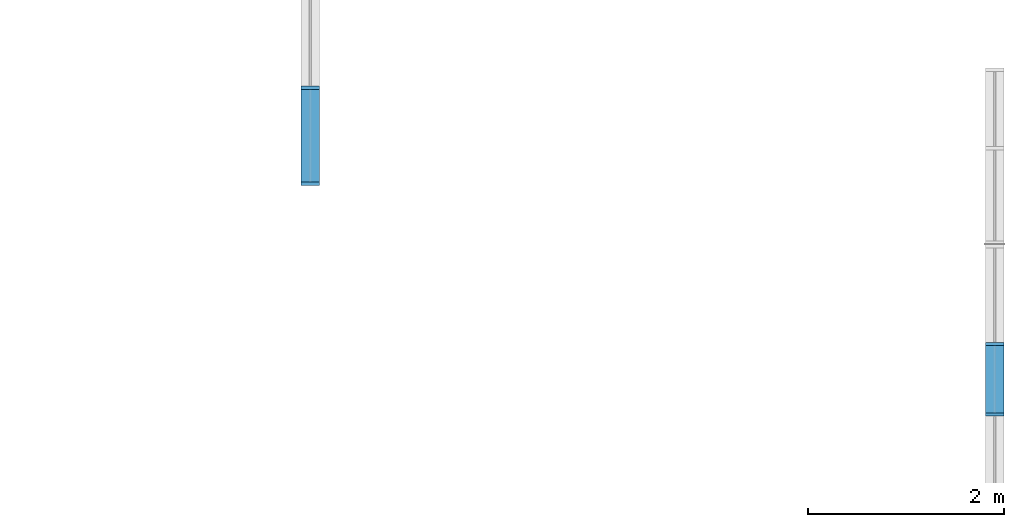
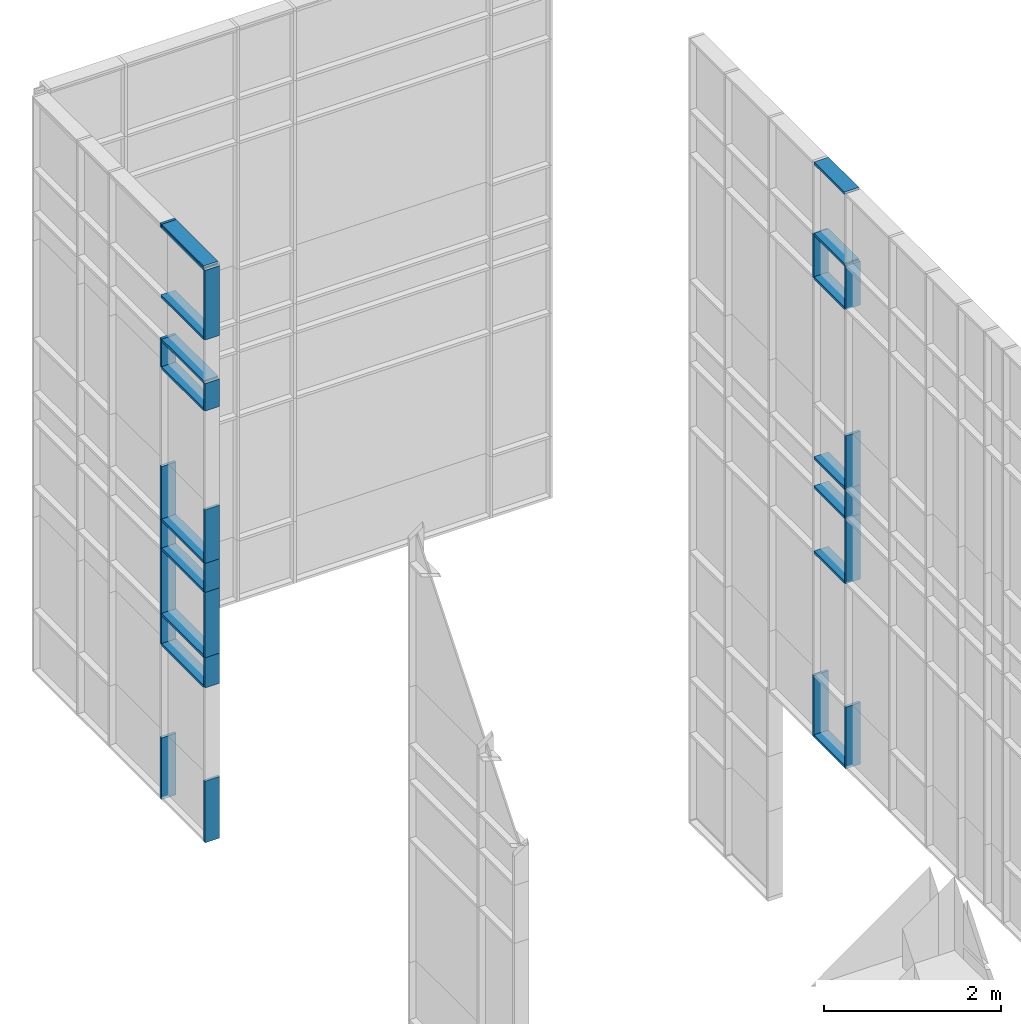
# One storey, part 16 of 73: 37 members, 2 elements without a shape of their own.
"""IFC2X3 building model written with IfcOpenShell, lengths in millimetres."""

from ifc_helpers import new_model, entity, si_unit, converted_unit, derived_unit, direction, frame, frame_2d, origin, origin_2d_with_axis, place, context, subcontext, project, spatial, rectangle, extrude, source, transform, mapped, material, type_object, type_shapes, element, aggregate, save


model = new_model("IFC2X3")

# Units and contexts
model_context = context("Model", 3, precision=0.01, world=origin(), true_north=direction((6.12303176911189e-17, 1.0)))
body_context = subcontext(model_context, "Body", "Model", "MODEL_VIEW")
ifc_project = project(units=[si_unit("LENGTHUNIT", "METRE", prefix="MILLI"), si_unit("AREAUNIT", "SQUARE_METRE"), si_unit("VOLUMEUNIT", "CUBIC_METRE"), converted_unit("PLANEANGLEUNIT", "DEGREE", entity("IfcRatioMeasure", 0.0174532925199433), si_unit("PLANEANGLEUNIT", "RADIAN"), dimensions=[0, 0, 0, 0, 0, 0, 0]), si_unit("MASSUNIT", "GRAM", prefix="KILO"), derived_unit("MASSDENSITYUNIT", [(si_unit("MASSUNIT", "GRAM", prefix="KILO"), 1), (si_unit("LENGTHUNIT", "METRE"), -3)]), si_unit("TIMEUNIT", "SECOND"), si_unit("FREQUENCYUNIT", "HERTZ"), si_unit("THERMODYNAMICTEMPERATUREUNIT", "DEGREE_CELSIUS"), derived_unit("THERMALTRANSMITTANCEUNIT", [(si_unit("MASSUNIT", "GRAM", prefix="KILO"), 1), (si_unit("THERMODYNAMICTEMPERATUREUNIT", "KELVIN"), -1), (si_unit("TIMEUNIT", "SECOND"), -3)]), derived_unit("VOLUMETRICFLOWRATEUNIT", [(si_unit("LENGTHUNIT", "METRE"), 3), (si_unit("TIMEUNIT", "SECOND"), -1)]), si_unit("ELECTRICCURRENTUNIT", "AMPERE"), si_unit("ELECTRICVOLTAGEUNIT", "VOLT"), si_unit("POWERUNIT", "WATT"), si_unit("FORCEUNIT", "NEWTON", prefix="KILO"), si_unit("ILLUMINANCEUNIT", "LUX"), si_unit("LUMINOUSFLUXUNIT", "LUMEN"), si_unit("LUMINOUSINTENSITYUNIT", "CANDELA"), derived_unit("USERDEFINED", [(si_unit("MASSUNIT", "GRAM", prefix="KILO"), -1), (si_unit("LENGTHUNIT", "METRE"), -2), (si_unit("TIMEUNIT", "SECOND"), 3), (si_unit("LUMINOUSFLUXUNIT", "LUMEN"), 1)]), derived_unit("LINEARVELOCITYUNIT", [(si_unit("LENGTHUNIT", "METRE"), 1), (si_unit("TIMEUNIT", "SECOND"), -1)]), si_unit("PRESSUREUNIT", "PASCAL"), derived_unit("USERDEFINED", [(si_unit("LENGTHUNIT", "METRE"), -2), (si_unit("MASSUNIT", "GRAM", prefix="KILO"), 1), (si_unit("TIMEUNIT", "SECOND"), -2)])], contexts=[model_context])

# Site, building, storey
site_placement = place(None, frame((-151.875543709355, 2715.0, 0.0)))
site = spatial("IfcSite", under=ifc_project, at=site_placement, Name="Surface", CompositionType="ELEMENT")
building_placement = place(site_placement, origin())
building = spatial("IfcBuilding", under=site, at=building_placement, CompositionType="ELEMENT")
storey_placement = place(building_placement, frame((0.0, 0.0, 6730.43000000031)))
storey = spatial("IfcBuildingStorey", under=building, at=storey_placement, Name="3 korrus", CompositionType="ELEMENT", Elevation=6730.43000000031)

# Curtain wall, members
curtain_wall_type_1 = type_object("IfcCurtainWallType", Name="Curtain Wall:Klaasfassaad", PredefinedType="NOTDEFINED")
curtain_wall_1_placement = place(storey_placement, frame((0.0, 0.0, -6730.43000000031)))
curtain_wall_1 = element("IfcCurtainWall", 1, at=curtain_wall_1_placement, inside=storey, type_object=curtain_wall_type_1, Name="Curtain Wall:Klaasfassaad", ObjectType="Curtain Wall:Klaasfassaad")
ifc_material = material(Name="Steel/Aluminium")
member_type_1 = type_object("IfcMemberType", Name="35 x 190mm", PredefinedType="MEMBER")
shared_shape_1 = source(origin(), body_context, "Body", "SweptSolid", [
    extrude(rectangle(XDim=190.0, YDim=35.0, at=origin_2d_with_axis()), frame((-17.5, 0.0, -685.0), z_axis=(0.0, 0.0, 1.0), x_axis=(0.0, -1.0, 0.0)), (0.0, 0.0, 1.0), 684.999999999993),
])
type_shapes(member_type_1, [shared_shape_1])
member_1_placement = place(storey_placement, frame((38701.6162681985, 20288.0004565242, -2856.00226032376), z_axis=(0.0, -1.0, 0.0), x_axis=(0.0, 0.0, -1.0)))
member_1 = element("IfcMember", 2, at=member_1_placement, type_object=member_type_1, material=ifc_material, Name="Rectangular Mullion:35 x 190mm", ObjectType="35 x 190mm", context=body_context, shape_type="MappedRepresentation", body=[
    mapped(shared_shape_1, transform((0.0, 0.0, 0.0), scale=1.0)),
])
member_type_2 = type_object("IfcMemberType", Name="35 x 190mm", PredefinedType="MEMBER")
shared_shape_2 = source(origin(), body_context, "Body", "SweptSolid", [
    extrude(rectangle(XDim=190.0, YDim=35.0, at=origin_2d_with_axis()), frame((-17.5, 0.0, -685.0), z_axis=(0.0, 0.0, 1.0), x_axis=(0.0, -1.0, 0.0)), (0.0, 0.0, 1.0), 684.999999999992),
])
type_shapes(member_type_2, [shared_shape_2])
member_2_placement = place(storey_placement, frame((38701.6162681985, 20973.0004565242, 5074.47692901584), z_axis=(0.0, 1.0, 0.0), x_axis=(0.0, 0.0, 1.0)))
member_2 = element("IfcMember", 3, at=member_2_placement, type_object=member_type_2, material=ifc_material, Name="Rectangular Mullion:35 x 190mm", ObjectType="35 x 190mm", context=body_context, shape_type="MappedRepresentation", body=[
    mapped(shared_shape_2, transform((0.0, 0.0, 0.0), scale=1.0)),
])
member_type_3 = type_object("IfcMemberType", Name="35 x 190mm", PredefinedType="MEMBER")
shared_shape_3 = source(origin(), body_context, "Body", "SweptSolid", [
    extrude(rectangle(XDim=190.0, YDim=35.0, at=origin_2d_with_axis()), frame((0.0, 0.0, -850.159729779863), z_axis=(0.0, 0.0, 1.0), x_axis=(0.0, -1.0, 0.0)), (0.0, 0.0, 1.0), 850.159729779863),
])
type_shapes(member_type_3, [shared_shape_3])
member_3_placement = place(storey_placement, frame((38701.6162681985, 20270.5004565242, -2856.00226032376), z_axis=(0.0, 0.0, -1.0), x_axis=(0.0, 1.0, 0.0)))
member_3 = element("IfcMember", 4, at=member_3_placement, type_object=member_type_3, material=ifc_material, Name="Rectangular Mullion:35 x 190mm", ObjectType="35 x 190mm", context=body_context, shape_type="MappedRepresentation", body=[
    mapped(shared_shape_3, transform((0.0, 0.0, 0.0), scale=1.0)),
])
member_4_placement = place(storey_placement, frame((38701.6162681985, 20990.5004565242, -2856.00226032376), z_axis=(0.0, 0.0, -1.0), x_axis=(0.0, 1.0, 0.0)))
member_4 = element("IfcMember", 5, at=member_4_placement, type_object=member_type_3, material=ifc_material, Name="Rectangular Mullion:35 x 190mm", ObjectType="35 x 190mm", context=body_context, shape_type="MappedRepresentation", body=[
    mapped(shared_shape_3, transform((0.0, 0.0, 0.0), scale=1.0)),
])
member_type_4 = type_object("IfcMemberType", Name="35 x 190mm", PredefinedType="MEMBER")
shared_shape_4 = source(origin(), body_context, "Body", "SweptSolid", [
    extrude(rectangle(XDim=190.0, YDim=35.0, at=origin_2d_with_axis()), frame((0.0, 0.0, -685.0), z_axis=(0.0, 0.0, 1.0), x_axis=(0.0, -1.0, 0.0)), (0.0, 0.0, 1.0), 684.999999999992),
])
type_shapes(member_type_4, [shared_shape_4])
member_5_placement = place(storey_placement, frame((38701.6162681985, 20973.0004565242, 4074.47692901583), z_axis=(0.0, 1.0, 0.0), x_axis=(0.0, 0.0, 1.0)))
member_5 = element("IfcMember", 6, at=member_5_placement, type_object=member_type_4, material=ifc_material, Name="Rectangular Mullion:35 x 190mm", ObjectType="35 x 190mm", context=body_context, shape_type="MappedRepresentation", body=[
    mapped(shared_shape_4, transform((0.0, 0.0, 0.0), scale=1.0)),
])
member_type_5 = type_object("IfcMemberType", Name="35 x 190mm", PredefinedType="MEMBER")
shared_shape_5 = source(origin(), body_context, "Body", "SweptSolid", [
    extrude(rectangle(XDim=190.0, YDim=35.0, at=origin_2d_with_axis()), frame((0.0, 0.0, -685.0), z_axis=(0.0, 0.0, 1.0), x_axis=(0.0, -1.0, 0.0)), (0.0, 0.0, 1.0), 684.999999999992),
])
type_shapes(member_type_5, [shared_shape_5])
member_6_placement = place(storey_placement, frame((38701.6162681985, 20973.0004565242, 3474.47692901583), z_axis=(0.0, 1.0, 0.0), x_axis=(0.0, 0.0, 1.0)))
member_6 = element("IfcMember", 7, at=member_6_placement, type_object=member_type_5, material=ifc_material, Name="Rectangular Mullion:35 x 190mm", ObjectType="35 x 190mm", context=body_context, shape_type="MappedRepresentation", body=[
    mapped(shared_shape_5, transform((0.0, 0.0, 0.0), scale=1.0)),
])
member_type_6 = type_object("IfcMemberType", Name="35 x 190mm", PredefinedType="MEMBER")
shared_shape_6 = source(origin(), body_context, "Body", "SweptSolid", [
    extrude(rectangle(XDim=190.0, YDim=35.0, at=origin_2d_with_axis()), frame((0.0, 0.0, -685.0), z_axis=(0.0, 0.0, 1.0), x_axis=(0.0, -1.0, 0.0)), (0.0, 0.0, 1.0), 684.999999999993),
])
type_shapes(member_type_6, [shared_shape_6])
member_7_placement = place(storey_placement, frame((38701.6162681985, 20973.0004565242, 994.476929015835), z_axis=(0.0, 1.0, 0.0), x_axis=(0.0, 0.0, 1.0)))
member_7 = element("IfcMember", 8, at=member_7_placement, type_object=member_type_6, material=ifc_material, Name="Rectangular Mullion:35 x 190mm", ObjectType="35 x 190mm", context=body_context, shape_type="MappedRepresentation", body=[
    mapped(shared_shape_6, transform((0.0, 0.0, 0.0), scale=1.0)),
])
member_type_7 = type_object("IfcMemberType", Name="35 x 190mm", PredefinedType="MEMBER")
shared_shape_7 = source(origin(), body_context, "Body", "SweptSolid", [
    extrude(rectangle(XDim=190.0, YDim=35.0, at=origin_2d_with_axis()), frame((0.0, 0.0, -685.0), z_axis=(0.0, 0.0, 1.0), x_axis=(0.0, -1.0, 0.0)), (0.0, 0.0, 1.0), 684.999999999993),
])
type_shapes(member_type_7, [shared_shape_7])
member_8_placement = place(storey_placement, frame((38701.6162681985, 20973.0004565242, 594.476929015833), z_axis=(0.0, 1.0, 0.0), x_axis=(0.0, 0.0, 1.0)))
member_8 = element("IfcMember", 9, at=member_8_placement, type_object=member_type_7, material=ifc_material, Name="Rectangular Mullion:35 x 190mm", ObjectType="35 x 190mm", context=body_context, shape_type="MappedRepresentation", body=[
    mapped(shared_shape_7, transform((0.0, 0.0, 0.0), scale=1.0)),
])
member_type_8 = type_object("IfcMemberType", Name="35 x 190mm", PredefinedType="MEMBER")
shared_shape_8 = source(origin(), body_context, "Body", "SweptSolid", [
    extrude(rectangle(XDim=190.0, YDim=35.0, at=origin_2d_with_axis()), frame((0.0, 0.0, -685.0), z_axis=(0.0, 0.0, 1.0), x_axis=(0.0, -1.0, 0.0)), (0.0, 0.0, 1.0), 684.999999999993),
])
type_shapes(member_type_8, [shared_shape_8])
member_9_placement = place(storey_placement, frame((38701.6162681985, 20973.0004565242, -305.523070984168), z_axis=(0.0, 1.0, 0.0), x_axis=(0.0, 0.0, 1.0)))
member_9 = element("IfcMember", 10, at=member_9_placement, type_object=member_type_8, material=ifc_material, Name="Rectangular Mullion:35 x 190mm", ObjectType="35 x 190mm", context=body_context, shape_type="MappedRepresentation", body=[
    mapped(shared_shape_8, transform((0.0, 0.0, 0.0), scale=1.0)),
])
member_type_9 = type_object("IfcMemberType", Name="35 x 190mm", PredefinedType="MEMBER")
shared_shape_9 = source(origin(), body_context, "Body", "SweptSolid", [
    extrude(rectangle(XDim=190.0, YDim=35.0, at=origin_2d_with_axis()), frame((0.0, 0.0, -600.0), z_axis=(0.0, 0.0, 1.0), x_axis=(0.0, -1.0, 0.0)), (0.0, 0.0, 1.0), 599.999999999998),
])
type_shapes(member_type_9, [shared_shape_9])
member_10_placement = place(storey_placement, frame((38701.6162681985, 20270.5004565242, 3474.47692901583), z_axis=(0.0, 0.0, -1.0), x_axis=(0.0, 1.0, 0.0)))
member_10 = element("IfcMember", 11, at=member_10_placement, type_object=member_type_9, material=ifc_material, Name="Rectangular Mullion:35 x 190mm", ObjectType="35 x 190mm", context=body_context, shape_type="MappedRepresentation", body=[
    mapped(shared_shape_9, transform((0.0, 0.0, 0.0), scale=1.0)),
])
member_11_placement = place(storey_placement, frame((38701.6162681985, 20990.5004565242, 3474.47692901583), z_axis=(0.0, 0.0, -1.0), x_axis=(0.0, 1.0, 0.0)))
member_11 = element("IfcMember", 12, at=member_11_placement, type_object=member_type_9, material=ifc_material, Name="Rectangular Mullion:35 x 190mm", ObjectType="35 x 190mm", context=body_context, shape_type="MappedRepresentation", body=[
    mapped(shared_shape_9, transform((0.0, 0.0, 0.0), scale=1.0)),
])
member_type_10 = type_object("IfcMemberType", Name="35 x 190mm", PredefinedType="MEMBER")
shared_shape_10 = source(origin(), body_context, "Body", "SweptSolid", [
    extrude(rectangle(XDim=190.0, YDim=35.0, at=origin_2d_with_axis()), frame((0.0, 0.0, -740.0), z_axis=(0.0, 0.0, 1.0), x_axis=(0.0, -1.0, 0.0)), (0.0, 0.0, 1.0), 740.000000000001),
])
type_shapes(member_type_10, [shared_shape_10])
member_12_placement = place(storey_placement, frame((38701.6162681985, 20270.5004565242, 994.476929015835), z_axis=(0.0, 0.0, -1.0), x_axis=(0.0, 1.0, 0.0)))
member_12 = element("IfcMember", 13, at=member_12_placement, type_object=member_type_10, material=ifc_material, Name="Rectangular Mullion:35 x 190mm", ObjectType="35 x 190mm", context=body_context, shape_type="MappedRepresentation", body=[
    mapped(shared_shape_10, transform((0.0, 0.0, 0.0), scale=1.0)),
])
member_type_11 = type_object("IfcMemberType", Name="35 x 190mm", PredefinedType="MEMBER")
shared_shape_11 = source(origin(), body_context, "Body", "SweptSolid", [
    extrude(rectangle(XDim=190.0, YDim=35.0, at=origin_2d_with_axis()), frame((0.0, 0.0, -400.0), z_axis=(0.0, 0.0, 1.0), x_axis=(0.0, -1.0, 0.0)), (0.0, 0.0, 1.0), 400.0),
])
type_shapes(member_type_11, [shared_shape_11])
member_13_placement = place(storey_placement, frame((38701.6162681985, 20270.5004565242, 594.476929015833), z_axis=(0.0, 0.0, -1.0), x_axis=(0.0, 1.0, 0.0)))
member_13 = element("IfcMember", 14, at=member_13_placement, type_object=member_type_11, material=ifc_material, Name="Rectangular Mullion:35 x 190mm", ObjectType="35 x 190mm", context=body_context, shape_type="MappedRepresentation", body=[
    mapped(shared_shape_11, transform((0.0, 0.0, 0.0), scale=1.0)),
])
member_type_12 = type_object("IfcMemberType", Name="35 x 190mm", PredefinedType="MEMBER")
shared_shape_12 = source(origin(), body_context, "Body", "SweptSolid", [
    extrude(rectangle(XDim=190.0, YDim=35.0, at=origin_2d_with_axis()), frame((0.0, 0.0, -900.0), z_axis=(0.0, 0.0, 1.0), x_axis=(0.0, -1.0, 0.0)), (0.0, 0.0, 1.0), 900.000000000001),
])
type_shapes(member_type_12, [shared_shape_12])
member_14_placement = place(storey_placement, frame((38701.6162681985, 20270.5004565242, -305.523070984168), z_axis=(0.0, 0.0, -1.0), x_axis=(0.0, 1.0, 0.0)))
member_14 = element("IfcMember", 15, at=member_14_placement, type_object=member_type_12, material=ifc_material, Name="Rectangular Mullion:35 x 190mm", ObjectType="35 x 190mm", context=body_context, shape_type="MappedRepresentation", body=[
    mapped(shared_shape_12, transform((0.0, 0.0, 0.0), scale=1.0)),
])
aggregate(curtain_wall_1, [member_1, member_2, member_3, member_4, member_5, member_6, member_7, member_8, member_9, member_10, member_12, member_13, member_14, member_11])

curtain_wall_type_2 = type_object("IfcCurtainWallType", Name="Curtain Wall:Klaasfassaad2", PredefinedType="NOTDEFINED")
curtain_wall_2_placement = place(storey_placement, frame((0.0, 0.0, -6730.43000000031)))
curtain_wall_2 = element("IfcCurtainWall", 16, at=curtain_wall_2_placement, inside=storey, type_object=curtain_wall_type_2, Name="Curtain Wall:Klaasfassaad2", ObjectType="Curtain Wall:Klaasfassaad2")
member_type_13 = type_object("IfcMemberType", Name="35 x 190mm", PredefinedType="MEMBER")
shared_shape_13 = source(origin(), body_context, "Body", "SweptSolid", [
    extrude(rectangle(XDim=190.0, YDim=35.0, at=origin_2d_with_axis()), frame((-17.5, 0.0, -400.0), z_axis=(0.0, 0.0, 1.0), x_axis=(0.0, -1.0, 0.0)), (0.0, 0.0, 1.0), 400.0),
])
type_shapes(member_type_13, [shared_shape_13])
member_15_placement = place(storey_placement, frame((31707.6162682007, 22610.0, 994.476929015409), z_axis=(0.0, 0.0, 1.0), x_axis=(0.0, -1.0, 0.0)))
member_15 = element("IfcMember", 17, at=member_15_placement, type_object=member_type_13, material=ifc_material, Name="Rectangular Mullion:35 x 190mm", ObjectType="35 x 190mm", context=body_context, shape_type="MappedRepresentation", body=[
    mapped(shared_shape_13, transform((0.0, 0.0, 0.0), scale=1.0)),
])
member_type_14 = type_object("IfcMemberType", Name="35 x 190mm", PredefinedType="MEMBER")
shared_shape_14 = source(origin(), body_context, "Body", "SweptSolid", [
    extrude(rectangle(XDim=190.0, YDim=35.0, at=origin_2d_with_axis()), frame((-17.5, 0.0, -900.0), z_axis=(0.0, 0.0, 1.0), x_axis=(0.0, -1.0, 0.0)), (0.0, 0.0, 1.0), 900.000000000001),
])
type_shapes(member_type_14, [shared_shape_14])
member_16_placement = place(storey_placement, frame((31707.6162682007, 22610.0, 594.476929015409), z_axis=(0.0, 0.0, 1.0), x_axis=(0.0, -1.0, 0.0)))
member_16 = element("IfcMember", 18, at=member_16_placement, type_object=member_type_14, material=ifc_material, Name="Rectangular Mullion:35 x 190mm", ObjectType="35 x 190mm", context=body_context, shape_type="MappedRepresentation", body=[
    mapped(shared_shape_14, transform((0.0, 0.0, 0.0), scale=1.0)),
])
member_type_15 = type_object("IfcMemberType", Name="35 x 190mm", PredefinedType="MEMBER")
shared_shape_15 = source(origin(), body_context, "Body", "SweptSolid", [
    extrude(rectangle(XDim=190.0, YDim=35.0, at=origin_2d_with_axis()), frame((-17.5, 0.0, -960.0), z_axis=(0.0, 0.0, 1.0), x_axis=(0.0, -1.0, 0.0)), (0.0, 0.0, 1.0), 960.000000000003),
])
type_shapes(member_type_15, [shared_shape_15])
member_17_placement = place(storey_placement, frame((31707.6162682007, 22610.0, 5034.47692901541), z_axis=(0.0, 0.0, 1.0), x_axis=(0.0, -1.0, 0.0)))
member_17 = element("IfcMember", 19, at=member_17_placement, type_object=member_type_15, material=ifc_material, Name="Rectangular Mullion:35 x 190mm", ObjectType="35 x 190mm", context=body_context, shape_type="MappedRepresentation", body=[
    mapped(shared_shape_15, transform((0.0, 0.0, 0.0), scale=1.0)),
])
member_type_16 = type_object("IfcMemberType", Name="35 x 190mm", PredefinedType="MEMBER")
shared_shape_16 = source(origin(), body_context, "Body", "SweptSolid", [
    extrude(rectangle(XDim=190.0, YDim=35.0, at=origin_2d_with_axis()), frame((-17.5, 0.0, -380.0), z_axis=(0.0, 0.0, 1.0), x_axis=(0.0, -1.0, 0.0)), (0.0, 0.0, 1.0), 380.0),
])
type_shapes(member_type_16, [shared_shape_16])
member_18_placement = place(storey_placement, frame((31707.6162682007, 22610.0, 3474.47692901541), z_axis=(0.0, 0.0, 1.0), x_axis=(0.0, -1.0, 0.0)))
member_18 = element("IfcMember", 20, at=member_18_placement, type_object=member_type_16, material=ifc_material, Name="Rectangular Mullion:35 x 190mm", ObjectType="35 x 190mm", context=body_context, shape_type="MappedRepresentation", body=[
    mapped(shared_shape_16, transform((0.0, 0.0, 0.0), scale=1.0)),
])
member_type_17 = type_object("IfcMemberType", Name="35 x 190mm", PredefinedType="MEMBER")
shared_shape_17 = source(origin(), body_context, "Body", "SweptSolid", [
    extrude(rectangle(XDim=190.0, YDim=35.0, at=origin_2d_with_axis()), frame((-17.5, 0.0, -415.479189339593), z_axis=(0.0, 0.0, 1.0), x_axis=(0.0, -1.0, 0.0)), (0.0, 0.0, 1.0), 415.479189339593),
])
type_shapes(member_type_17, [shared_shape_17])
member_19_placement = place(storey_placement, frame((31707.6162682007, 22610.0, -305.523070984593), z_axis=(0.0, 0.0, 1.0), x_axis=(0.0, -1.0, 0.0)))
member_19 = element("IfcMember", 21, at=member_19_placement, type_object=member_type_17, material=ifc_material, Name="Rectangular Mullion:35 x 190mm", ObjectType="35 x 190mm", context=body_context, shape_type="MappedRepresentation", body=[
    mapped(shared_shape_17, transform((0.0, 0.0, 0.0), scale=1.0)),
])
member_type_18 = type_object("IfcMemberType", Name="35 x 190mm", PredefinedType="MEMBER")
shared_shape_18 = source(origin(), body_context, "Body", "SweptSolid", [
    extrude(rectangle(XDim=190.0, YDim=35.0, at=origin_2d_with_axis()), frame((-17.5, 0.0, -740.0), z_axis=(0.0, 0.0, 1.0), x_axis=(0.0, -1.0, 0.0)), (0.0, 0.0, 1.0), 740.000000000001),
])
type_shapes(member_type_18, [shared_shape_18])
member_20_placement = place(storey_placement, frame((31707.6162682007, 22610.0, 1734.47692901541), z_axis=(0.0, 0.0, 1.0), x_axis=(0.0, -1.0, 0.0)))
member_20 = element("IfcMember", 22, at=member_20_placement, type_object=member_type_18, material=ifc_material, Name="Rectangular Mullion:35 x 190mm", ObjectType="35 x 190mm", context=body_context, shape_type="MappedRepresentation", body=[
    mapped(shared_shape_18, transform((0.0, 0.0, 0.0), scale=1.0)),
])
member_type_19 = type_object("IfcMemberType", Name="35 x 190mm", PredefinedType="MEMBER")
shared_shape_19 = source(origin(), body_context, "Body", "SweptSolid", [
    extrude(rectangle(XDim=190.0, YDim=35.0, at=origin_2d_with_axis()), frame((-17.5, 0.0, -850.159729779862), z_axis=(0.0, 0.0, 1.0), x_axis=(0.0, -1.0, 0.0)), (0.0, 0.0, 1.0), 850.159729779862),
])
type_shapes(member_type_19, [shared_shape_19])
member_21_placement = place(storey_placement, frame((31707.6162682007, 22610.0, -2005.84253054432), z_axis=(0.0, 0.0, 1.0), x_axis=(0.0, -1.0, 0.0)))
member_21 = element("IfcMember", 23, at=member_21_placement, type_object=member_type_19, material=ifc_material, Name="Rectangular Mullion:35 x 190mm", ObjectType="35 x 190mm", context=body_context, shape_type="MappedRepresentation", body=[
    mapped(shared_shape_19, transform((0.0, 0.0, 0.0), scale=1.0)),
])
member_type_20 = type_object("IfcMemberType", Name="35 x 190mm", PredefinedType="MEMBER")
shared_shape_20 = source(origin(), body_context, "Body", "SweptSolid", [
    extrude(rectangle(XDim=190.0, YDim=35.0, at=origin_2d_with_axis()), frame((-17.5, 0.0, -947.499999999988), z_axis=(0.0, 0.0, 1.0), x_axis=(0.0, -1.0, 0.0)), (0.0, 0.0, 1.0), 947.499999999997),
])
type_shapes(member_type_20, [shared_shape_20])
member_22_placement = place(storey_placement, frame((31707.6162682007, 23592.5000000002, 5074.47692901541), z_axis=(0.0, 1.0, 0.0), x_axis=(0.0, 0.0, 1.0)))
member_22 = element("IfcMember", 24, at=member_22_placement, type_object=member_type_20, material=ifc_material, Name="Rectangular Mullion:35 x 190mm", ObjectType="35 x 190mm", context=body_context, shape_type="MappedRepresentation", body=[
    mapped(shared_shape_20, transform((0.0, 0.0, 0.0), scale=1.0)),
])
member_type_21 = type_object("IfcMemberType", Name="35 x 190mm", PredefinedType="MEMBER")
shared_shape_21 = source(origin(), body_context, "Body", "SweptSolid", [
    extrude(rectangle(XDim=190.0, YDim=35.0, at=origin_2d_with_axis()), frame((0.0, 0.0, -965.0), z_axis=(0.0, 0.0, 1.0), x_axis=(0.0, -1.0, 0.0)), (0.0, 0.0, 1.0), 964.999999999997),
])
type_shapes(member_type_21, [shared_shape_21])
member_23_placement = place(storey_placement, frame((31707.6162682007, 23610.0, 4074.47692901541), z_axis=(0.0, 1.0, 0.0), x_axis=(0.0, 0.0, 1.0)))
member_23 = element("IfcMember", 25, at=member_23_placement, type_object=member_type_21, material=ifc_material, Name="Rectangular Mullion:35 x 190mm", ObjectType="35 x 190mm", context=body_context, shape_type="MappedRepresentation", body=[
    mapped(shared_shape_21, transform((0.0, 0.0, 0.0), scale=1.0)),
])
member_type_22 = type_object("IfcMemberType", Name="35 x 190mm", PredefinedType="MEMBER")
shared_shape_22 = source(origin(), body_context, "Body", "SweptSolid", [
    extrude(rectangle(XDim=190.0, YDim=35.0, at=frame_2d((2.34479102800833e-13, 0.0), x_axis=(1.0, 0.0))), frame((0.0, 0.0, -947.499999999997), z_axis=(0.0, 0.0, 1.0), x_axis=(0.0, -1.0, 0.0)), (0.0, 0.0, 1.0), 947.499999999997),
])
type_shapes(member_type_22, [shared_shape_22])
member_24_placement = place(storey_placement, frame((31707.6162682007, 23592.5000000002, 3474.47692901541), z_axis=(0.0, 1.0, 0.0), x_axis=(0.0, 0.0, 1.0)))
member_24 = element("IfcMember", 26, at=member_24_placement, type_object=member_type_22, material=ifc_material, Name="Rectangular Mullion:35 x 190mm", ObjectType="35 x 190mm", context=body_context, shape_type="MappedRepresentation", body=[
    mapped(shared_shape_22, transform((0.0, 0.0, 0.0), scale=1.0)),
])
member_type_23 = type_object("IfcMemberType", Name="35 x 190mm", PredefinedType="MEMBER")
shared_shape_23 = source(origin(), body_context, "Body", "SweptSolid", [
    extrude(rectangle(XDim=190.0, YDim=35.0, at=origin_2d_with_axis()), frame((0.0, 0.0, -947.499999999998), z_axis=(0.0, 0.0, 1.0), x_axis=(0.0, -1.0, 0.0)), (0.0, 0.0, 1.0), 947.499999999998),
])
type_shapes(member_type_23, [shared_shape_23])
member_25_placement = place(storey_placement, frame((31707.6162682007, 23592.5000000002, 994.47692901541), z_axis=(0.0, 1.0, 0.0), x_axis=(0.0, 0.0, 1.0)))
member_25 = element("IfcMember", 27, at=member_25_placement, type_object=member_type_23, material=ifc_material, Name="Rectangular Mullion:35 x 190mm", ObjectType="35 x 190mm", context=body_context, shape_type="MappedRepresentation", body=[
    mapped(shared_shape_23, transform((0.0, 0.0, 0.0), scale=1.0)),
])
member_type_24 = type_object("IfcMemberType", Name="35 x 190mm", PredefinedType="MEMBER")
shared_shape_24 = source(origin(), body_context, "Body", "SweptSolid", [
    extrude(rectangle(XDim=190.0, YDim=35.0, at=origin_2d_with_axis()), frame((0.0, 0.0, -947.499999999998), z_axis=(0.0, 0.0, 1.0), x_axis=(0.0, -1.0, 0.0)), (0.0, 0.0, 1.0), 947.499999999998),
])
type_shapes(member_type_24, [shared_shape_24])
member_26_placement = place(storey_placement, frame((31707.6162682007, 23592.5000000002, 594.476929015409), z_axis=(0.0, 1.0, 0.0), x_axis=(0.0, 0.0, 1.0)))
member_26 = element("IfcMember", 28, at=member_26_placement, type_object=member_type_24, material=ifc_material, Name="Rectangular Mullion:35 x 190mm", ObjectType="35 x 190mm", context=body_context, shape_type="MappedRepresentation", body=[
    mapped(shared_shape_24, transform((0.0, 0.0, 0.0), scale=1.0)),
])
member_type_25 = type_object("IfcMemberType", Name="35 x 190mm", PredefinedType="MEMBER")
shared_shape_25 = source(origin(), body_context, "Body", "SweptSolid", [
    extrude(rectangle(XDim=190.0, YDim=35.0, at=origin_2d_with_axis()), frame((0.0, 0.0, -947.499999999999), z_axis=(0.0, 0.0, 1.0), x_axis=(0.0, -1.0, 0.0)), (0.0, 0.0, 1.0), 947.499999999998),
])
type_shapes(member_type_25, [shared_shape_25])
member_27_placement = place(storey_placement, frame((31707.6162682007, 23592.5000000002, -305.523070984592), z_axis=(0.0, 1.0, 0.0), x_axis=(0.0, 0.0, 1.0)))
member_27 = element("IfcMember", 29, at=member_27_placement, type_object=member_type_25, material=ifc_material, Name="Rectangular Mullion:35 x 190mm", ObjectType="35 x 190mm", context=body_context, shape_type="MappedRepresentation", body=[
    mapped(shared_shape_25, transform((0.0, 0.0, 0.0), scale=1.0)),
])
member_type_26 = type_object("IfcMemberType", Name="35 x 190mm", PredefinedType="MEMBER")
shared_shape_26 = source(origin(), body_context, "Body", "SweptSolid", [
    extrude(rectangle(XDim=190.0, YDim=35.0, at=origin_2d_with_axis()), frame((0.0, 0.0, -947.499999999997), z_axis=(0.0, 0.0, 1.0), x_axis=(0.0, -1.0, 0.0)), (0.0, 0.0, 1.0), 947.499999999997),
])
type_shapes(member_type_26, [shared_shape_26])
member_28_placement = place(storey_placement, frame((31707.6162682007, 23592.5000000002, 5034.47692901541), z_axis=(0.0, 1.0, 0.0), x_axis=(0.0, 0.0, 1.0)))
member_28 = element("IfcMember", 30, at=member_28_placement, type_object=member_type_26, material=ifc_material, Name="Rectangular Mullion:35 x 190mm", ObjectType="35 x 190mm", context=body_context, shape_type="MappedRepresentation", body=[
    mapped(shared_shape_26, transform((0.0, 0.0, 0.0), scale=1.0)),
])
member_type_27 = type_object("IfcMemberType", Name="35 x 190mm", PredefinedType="MEMBER")
shared_shape_27 = source(origin(), body_context, "Body", "SweptSolid", [
    extrude(rectangle(XDim=190.0, YDim=35.0, at=origin_2d_with_axis()), frame((0.0, 0.0, -850.159729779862), z_axis=(0.0, 0.0, 1.0), x_axis=(0.0, -1.0, 0.0)), (0.0, 0.0, 1.0), 850.159729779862),
])
type_shapes(member_type_27, [shared_shape_27])
member_29_placement = place(storey_placement, frame((31707.6162682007, 23610.0, -2856.00226032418), z_axis=(0.0, 0.0, -1.0), x_axis=(0.0, 1.0, 0.0)))
member_29 = element("IfcMember", 31, at=member_29_placement, type_object=member_type_27, material=ifc_material, Name="Rectangular Mullion:35 x 190mm", ObjectType="35 x 190mm", context=body_context, shape_type="MappedRepresentation", body=[
    mapped(shared_shape_27, transform((0.0, 0.0, 0.0), scale=1.0)),
])
member_type_28 = type_object("IfcMemberType", Name="35 x 190mm", PredefinedType="MEMBER")
shared_shape_28 = source(origin(), body_context, "Body", "SweptSolid", [
    extrude(rectangle(XDim=190.0, YDim=35.0, at=origin_2d_with_axis()), frame((0.0, 0.0, -947.499999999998), z_axis=(0.0, 0.0, 1.0), x_axis=(0.0, -1.0, 0.0)), (0.0, 0.0, 1.0), 947.499999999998),
])
type_shapes(member_type_28, [shared_shape_28])
member_30_placement = place(storey_placement, frame((31707.6162682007, 23592.5000000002, -721.002260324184), z_axis=(0.0, 1.0, 0.0), x_axis=(0.0, 0.0, 1.0)))
member_30 = element("IfcMember", 32, at=member_30_placement, type_object=member_type_28, material=ifc_material, Name="Rectangular Mullion:35 x 190mm", ObjectType="35 x 190mm", context=body_context, shape_type="MappedRepresentation", body=[
    mapped(shared_shape_28, transform((0.0, 0.0, 0.0), scale=1.0)),
])
member_type_29 = type_object("IfcMemberType", Name="35 x 190mm", PredefinedType="MEMBER")
shared_shape_29 = source(origin(), body_context, "Body", "SweptSolid", [
    extrude(rectangle(XDim=190.0, YDim=35.0, at=origin_2d_with_axis()), frame((0.0, 0.0, -947.499999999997), z_axis=(0.0, 0.0, 1.0), x_axis=(0.0, -1.0, 0.0)), (0.0, 0.0, 1.0), 947.499999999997),
])
type_shapes(member_type_29, [shared_shape_29])
member_31_placement = place(storey_placement, frame((31707.6162682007, 23592.5000000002, 3094.47692901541), z_axis=(0.0, 1.0, 0.0), x_axis=(0.0, 0.0, 1.0)))
member_31 = element("IfcMember", 33, at=member_31_placement, type_object=member_type_29, material=ifc_material, Name="Rectangular Mullion:35 x 190mm", ObjectType="35 x 190mm", context=body_context, shape_type="MappedRepresentation", body=[
    mapped(shared_shape_29, transform((0.0, 0.0, 0.0), scale=1.0)),
])
member_type_30 = type_object("IfcMemberType", Name="35 x 190mm", PredefinedType="MEMBER")
shared_shape_30 = source(origin(), body_context, "Body", "SweptSolid", [
    extrude(rectangle(XDim=190.0, YDim=35.0, at=origin_2d_with_axis()), frame((0.0, 0.0, -400.0), z_axis=(0.0, 0.0, 1.0), x_axis=(0.0, -1.0, 0.0)), (0.0, 0.0, 1.0), 400.0),
])
type_shapes(member_type_30, [shared_shape_30])
member_32_placement = place(storey_placement, frame((31707.6162682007, 23610.0, 594.476929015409), z_axis=(0.0, 0.0, -1.0), x_axis=(0.0, 1.0, 0.0)))
member_32 = element("IfcMember", 34, at=member_32_placement, type_object=member_type_30, material=ifc_material, Name="Rectangular Mullion:35 x 190mm", ObjectType="35 x 190mm", context=body_context, shape_type="MappedRepresentation", body=[
    mapped(shared_shape_30, transform((0.0, 0.0, 0.0), scale=1.0)),
])
member_type_31 = type_object("IfcMemberType", Name="35 x 190mm", PredefinedType="MEMBER")
shared_shape_31 = source(origin(), body_context, "Body", "SweptSolid", [
    extrude(rectangle(XDim=190.0, YDim=35.0, at=origin_2d_with_axis()), frame((0.0, 0.0, -900.0), z_axis=(0.0, 0.0, 1.0), x_axis=(0.0, -1.0, 0.0)), (0.0, 0.0, 1.0), 899.999999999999),
])
type_shapes(member_type_31, [shared_shape_31])
member_33_placement = place(storey_placement, frame((31707.6162682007, 23610.0, -305.523070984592), z_axis=(0.0, 0.0, -1.0), x_axis=(0.0, 1.0, 0.0)))
member_33 = element("IfcMember", 35, at=member_33_placement, type_object=member_type_31, material=ifc_material, Name="Rectangular Mullion:35 x 190mm", ObjectType="35 x 190mm", context=body_context, shape_type="MappedRepresentation", body=[
    mapped(shared_shape_31, transform((0.0, 0.0, 0.0), scale=1.0)),
])
member_type_32 = type_object("IfcMemberType", Name="35 x 190mm", PredefinedType="MEMBER")
shared_shape_32 = source(origin(), body_context, "Body", "SweptSolid", [
    extrude(rectangle(XDim=190.0, YDim=35.0, at=origin_2d_with_axis()), frame((0.0, 0.0, -740.0), z_axis=(0.0, 0.0, 1.0), x_axis=(0.0, -1.0, 0.0)), (0.0, 0.0, 1.0), 740.000000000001),
])
type_shapes(member_type_32, [shared_shape_32])
member_34_placement = place(storey_placement, frame((31707.6162682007, 23610.0, 994.47692901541), z_axis=(0.0, 0.0, -1.0), x_axis=(0.0, 1.0, 0.0)))
member_34 = element("IfcMember", 36, at=member_34_placement, type_object=member_type_32, material=ifc_material, Name="Rectangular Mullion:35 x 190mm", ObjectType="35 x 190mm", context=body_context, shape_type="MappedRepresentation", body=[
    mapped(shared_shape_32, transform((0.0, 0.0, 0.0), scale=1.0)),
])
member_type_33 = type_object("IfcMemberType", Name="35 x 190mm", PredefinedType="MEMBER")
shared_shape_33 = source(origin(), body_context, "Body", "SweptSolid", [
    extrude(rectangle(XDim=190.0, YDim=35.0, at=origin_2d_with_axis()), frame((0.0, 0.0, -57.4999999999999), z_axis=(0.0, 0.0, 1.0), x_axis=(0.0, -1.0, 0.0)), (0.0, 0.0, 1.0), 57.4999999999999),
])
type_shapes(member_type_33, [shared_shape_33])
member_35_placement = place(storey_placement, frame((31707.6162682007, 23610.0, 5016.97692901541), z_axis=(0.0, 0.0, -1.0), x_axis=(0.0, 1.0, 0.0)))
member_35 = element("IfcMember", 37, at=member_35_placement, type_object=member_type_33, material=ifc_material, Name="Rectangular Mullion:35 x 190mm", ObjectType="35 x 190mm", context=body_context, shape_type="MappedRepresentation", body=[
    mapped(shared_shape_33, transform((0.0, 0.0, 0.0), scale=1.0)),
])
member_type_34 = type_object("IfcMemberType", Name="35 x 190mm", PredefinedType="MEMBER")
shared_shape_34 = source(origin(), body_context, "Body", "SweptSolid", [
    extrude(rectangle(XDim=190.0, YDim=35.0, at=origin_2d_with_axis()), frame((0.0, 0.0, -397.500000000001), z_axis=(0.0, 0.0, 1.0), x_axis=(0.0, -1.0, 0.0)), (0.0, 0.0, 1.0), 397.500000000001),
])
type_shapes(member_type_34, [shared_shape_34])
member_36_placement = place(storey_placement, frame((31707.6162682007, 23610.0, 3094.47692901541), z_axis=(0.0, 0.0, -1.0), x_axis=(0.0, 1.0, 0.0)))
member_36 = element("IfcMember", 38, at=member_36_placement, type_object=member_type_34, material=ifc_material, Name="Rectangular Mullion:35 x 190mm", ObjectType="35 x 190mm", context=body_context, shape_type="MappedRepresentation", body=[
    mapped(shared_shape_34, transform((0.0, 0.0, 0.0), scale=1.0)),
])
member_type_35 = type_object("IfcMemberType", Name="35 x 190mm", PredefinedType="MEMBER")
shared_shape_35 = source(origin(), body_context, "Body", "SweptSolid", [
    extrude(rectangle(XDim=190.0, YDim=35.0, at=origin_2d_with_axis()), frame((0.0, 0.0, -415.479189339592), z_axis=(0.0, 0.0, 1.0), x_axis=(0.0, -1.0, 0.0)), (0.0, 0.0, 1.0), 415.479189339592),
])
type_shapes(member_type_35, [shared_shape_35])
member_37_placement = place(storey_placement, frame((31707.6162682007, 23610.0, -721.002260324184), z_axis=(0.0, 0.0, -1.0), x_axis=(0.0, 1.0, 0.0)))
member_37 = element("IfcMember", 39, at=member_37_placement, type_object=member_type_35, material=ifc_material, Name="Rectangular Mullion:35 x 190mm", ObjectType="35 x 190mm", context=body_context, shape_type="MappedRepresentation", body=[
    mapped(shared_shape_35, transform((0.0, 0.0, 0.0), scale=1.0)),
])
aggregate(curtain_wall_2, [member_18, member_15, member_16, member_19, member_20, member_21, member_17, member_22, member_23, member_24, member_25, member_26, member_27, member_28, member_29, member_30, member_31, member_34, member_35, member_36, member_37, member_33, member_32])

save(model, "model.ifc")
